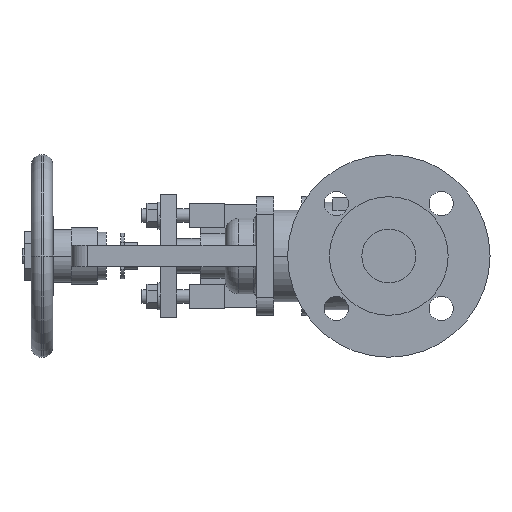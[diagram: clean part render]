
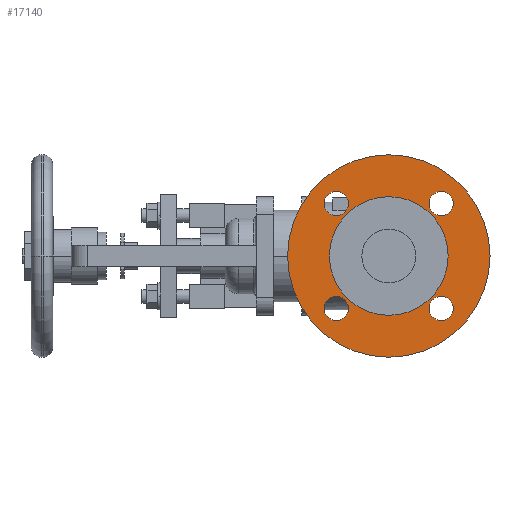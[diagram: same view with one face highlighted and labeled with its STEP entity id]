
A CAD part, left-side view. The second image highlights one B-rep face of the part: STEP entity #17140.
In plain terms, the highlighted planar face has unit normal (-1, 0, 0).
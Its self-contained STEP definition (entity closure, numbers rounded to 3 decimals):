
#8450=CARTESIAN_POINT('',(3.,0.,-75.));
#8460=VERTEX_POINT('',#8450);
#8620=CARTESIAN_POINT('',(3.,0.,75.));
#8630=VERTEX_POINT('',#8620);
#8660=CARTESIAN_POINT('',(3.,0.,0.));
#8670=DIRECTION('',(1.,0.,0.));
#8680=DIRECTION('',(0.,0.,-1.));
#8690=AXIS2_PLACEMENT_3D('',#8660,#8670,#8680);
#8700=CIRCLE('',#8690,75.);
#8710=CARTESIAN_POINT('',(3.,75.,0.));
#8720=VERTEX_POINT('',#8710);
#8730=EDGE_CURVE('',#8720,#8630,#8700,.T.);
#8750=EDGE_CURVE('',#8460,#8720,#8700,.T.);
#8980=CARTESIAN_POINT('',(3.,38.891,-47.891));
#8990=VERTEX_POINT('',#8980);
#9020=CARTESIAN_POINT('',(3.,38.891,-38.891));
#9030=DIRECTION('',(-1.,0.,0.));
#9040=DIRECTION('',(0.,0.,-1.));
#9050=AXIS2_PLACEMENT_3D('',#9020,#9030,#9040);
#9060=CIRCLE('',#9050,9.);
#9070=CARTESIAN_POINT('',(3.,38.891,-29.891));
#9080=VERTEX_POINT('',#9070);
#9090=EDGE_CURVE('',#9080,#8990,#9060,.T.);
#9470=CARTESIAN_POINT('',(3.,-38.891,-47.891));
#9480=VERTEX_POINT('',#9470);
#9640=CARTESIAN_POINT('',(3.,-38.891,-29.891));
#9650=VERTEX_POINT('',#9640);
#9680=CARTESIAN_POINT('',(3.,-38.891,-38.891));
#9690=DIRECTION('',(-1.,0.,0.));
#9700=DIRECTION('',(0.,0.,-1.));
#9710=AXIS2_PLACEMENT_3D('',#9680,#9690,#9700);
#9720=CIRCLE('',#9710,9.);
#9730=EDGE_CURVE('',#9480,#9650,#9720,.T.);
#9960=CARTESIAN_POINT('',(3.,38.891,47.891));
#9970=VERTEX_POINT('',#9960);
#10130=CARTESIAN_POINT('',(3.,38.891,29.891));
#10140=VERTEX_POINT('',#10130);
#10170=CARTESIAN_POINT('',(3.,38.891,38.891));
#10180=DIRECTION('',(-1.,0.,0.));
#10190=DIRECTION('',(0.,0.,-1.));
#10200=AXIS2_PLACEMENT_3D('',#10170,#10180,#10190);
#10210=CIRCLE('',#10200,9.);
#10220=EDGE_CURVE('',#9970,#10140,#10210,.T.);
#10450=CARTESIAN_POINT('',(3.,-38.891,47.891));
#10460=VERTEX_POINT('',#10450);
#10490=CARTESIAN_POINT('',(3.,-38.891,38.891));
#10500=DIRECTION('',(-1.,0.,0.));
#10510=DIRECTION('',(0.,0.,-1.));
#10520=AXIS2_PLACEMENT_3D('',#10490,#10500,#10510);
#10530=CIRCLE('',#10520,9.);
#10540=CARTESIAN_POINT('',(3.,-38.891,29.891));
#10550=VERTEX_POINT('',#10540);
#10560=EDGE_CURVE('',#10550,#10460,#10530,.T.);
#10940=CARTESIAN_POINT('',(3.,-44.,0.));
#10950=VERTEX_POINT('',#10940);
#11110=CARTESIAN_POINT('',(3.,44.,0.));
#11120=VERTEX_POINT('',#11110);
#11150=CARTESIAN_POINT('',(3.,0.,0.));
#11160=DIRECTION('',(-1.,0.,0.));
#11170=DIRECTION('',(0.,1.,0.));
#11180=AXIS2_PLACEMENT_3D('',#11150,#11160,#11170);
#11190=CIRCLE('',#11180,44.);
#11200=EDGE_CURVE('',#10950,#11120,#11190,.T.);
#16780=CARTESIAN_POINT('',(3.,59.5,0.));
#16790=DIRECTION('',(1.,0.,0.));
#16800=DIRECTION('',(0.,-1.,0.));
#16810=AXIS2_PLACEMENT_3D('',#16780,#16790,#16800);
#16820=PLANE('',#16810);
#16830=EDGE_CURVE('',#11120,#10950,#11190,.T.);
#16840=ORIENTED_EDGE('',*,*,#16830,.F.);
#16850=ORIENTED_EDGE('',*,*,#11200,.F.);
#16860=EDGE_LOOP('',(#16850,#16840));
#16870=FACE_BOUND('',#16860,.T.);
#16880=ORIENTED_EDGE('',*,*,#8730,.F.);
#16890=EDGE_CURVE('',#8630,#8460,#8700,.T.);
#16900=ORIENTED_EDGE('',*,*,#16890,.F.);
#16910=ORIENTED_EDGE('',*,*,#8750,.F.);
#16920=EDGE_LOOP('',(#16910,#16900,#16880));
#16930=FACE_OUTER_BOUND('',#16920,.T.);
#16940=EDGE_CURVE('',#8990,#9080,#9060,.T.);
#16950=ORIENTED_EDGE('',*,*,#16940,.F.);
#16960=ORIENTED_EDGE('',*,*,#9090,.F.);
#16970=EDGE_LOOP('',(#16960,#16950));
#16980=FACE_BOUND('',#16970,.T.);
#16990=EDGE_CURVE('',#9650,#9480,#9720,.T.);
#17000=ORIENTED_EDGE('',*,*,#16990,.F.);
#17010=ORIENTED_EDGE('',*,*,#9730,.F.);
#17020=EDGE_LOOP('',(#17010,#17000));
#17030=FACE_BOUND('',#17020,.T.);
#17040=EDGE_CURVE('',#10140,#9970,#10210,.T.);
#17050=ORIENTED_EDGE('',*,*,#17040,.F.);
#17060=ORIENTED_EDGE('',*,*,#10220,.F.);
#17070=EDGE_LOOP('',(#17060,#17050));
#17080=FACE_BOUND('',#17070,.T.);
#17090=ORIENTED_EDGE('',*,*,#10560,.F.);
#17100=EDGE_CURVE('',#10460,#10550,#10530,.T.);
#17110=ORIENTED_EDGE('',*,*,#17100,.F.);
#17120=EDGE_LOOP('',(#17110,#17090));
#17130=FACE_BOUND('',#17120,.T.);
#17140=ADVANCED_FACE('',(#16870,#16930,#16980,#17030,#17080,#17130),
#16820,.F.);
